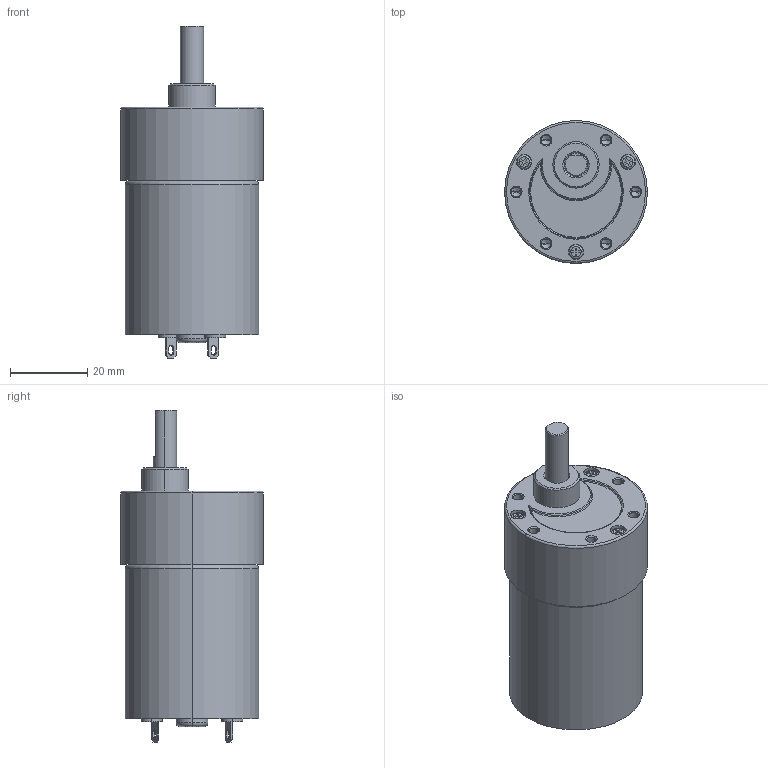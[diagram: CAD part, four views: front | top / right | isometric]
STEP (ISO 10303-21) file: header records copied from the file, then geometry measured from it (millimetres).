
FILE_DESCRIPTION (( 'STEP AP214' ), '1' );
FILE_NAME ('BDSG-37-40-R6.STEP', '2010-06-25T15:46:40', ( 'Tim Raines' ), ( 'Anaheim Automation' ), 'SwSTEP 2.0', 'SolidWorks 2010', '' );
FILE_SCHEMA (( 'AUTOMOTIVE_DESIGN' ));
Length unit declared in the file: millimetre
Products named in the file (1): BDSG-37-40-R6
Bounding box: 37 x 37 x 86 mm (x, y, z)
Volume: 57938.7 mm3; surface area: 10466.8 mm2
Topology: 1 solids, 1 shells, 180 faces, 423 edges, 260 vertices
Faces by surface type: plane 77, cylinder 48, cone 31, torus 24
Entity records: 7118 total; most frequent: DIRECTION 934, CARTESIAN_POINT 894, ORIENTED_EDGE 822, EDGE_CURVE 411, AXIS2_PLACEMENT_3D 348, VERTEX_POINT 260, LINE 238, VECTOR 238
